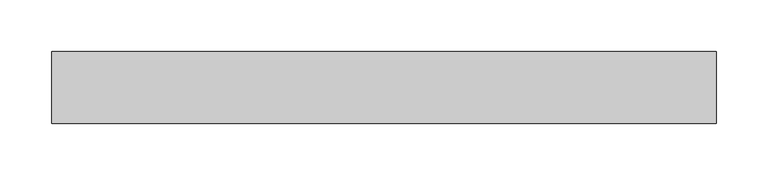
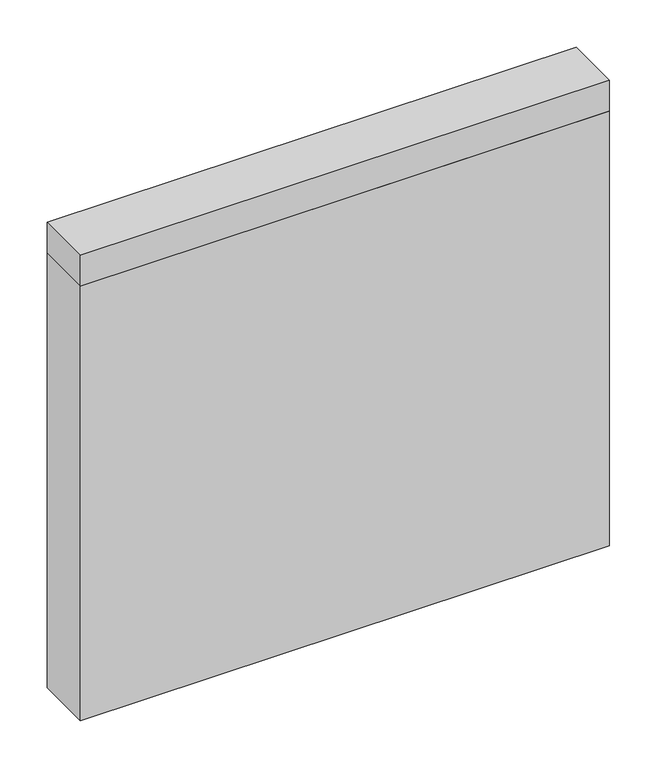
"""IFC4 building model written with IfcOpenShell, lengths in millimetres: plate geometry, 営_パーティションパネル_上部 : パーティションパネル_上部."""

from ifc_helpers import new_model, si_unit, frame, origin, origin_with_axes, place, context, project, spatial, polyline, outline, extrude, source, transform, mapped, element, save


def plate_facfa67a(model_context):
    return source(origin(), model_context, "Body", "SweptSolid", [
        extrude(outline(polyline([(-322.4999998, -35.0), (-322.4999998, 35.0), (322.4999998, 35.0), (322.4999998, -35.0), (-322.4999998, -35.0)])), origin_with_axes(), (0.0, 0.0, 1.0), 560.0),
        extrude(outline(polyline([(-322.4999998, -35.0), (-322.4999998, 35.0), (322.4999998, 35.0), (322.4999998, -35.0), (-322.4999998, -35.0)])), frame((0.0, 0.0, 560.0), z_axis=(0.0, 0.0, 1.0), x_axis=(1.0, 0.0, 0.0)), (0.0, 0.0, 1.0), 40.0),
    ])


if __name__ == "__main__":
    model = new_model("IFC4")
    model_context = context("Model", 3, world=origin())
    ifc_project = project(units=[si_unit("LENGTHUNIT", "METRE", prefix="MILLI")], contexts=[model_context])
    site = spatial("IfcSite", under=ifc_project)
    building = spatial("IfcBuilding", under=site)
    placement = place(None, origin())
    plate_shape = plate_facfa67a(model_context)
    element("IfcPlate", 1, ObjectType="営_パーティションパネル_上部 : パーティションパネル_上部", at=placement, inside=building, context=model_context, shape_type="MappedRepresentation", body=[
        mapped(plate_shape, transform((0.0, 0.0, 0.0), x_axis=(1.0, 0.0, 0.0), y_axis=(0.0, 1.0, 0.0), z_axis=(0.0, 0.0, 1.0))),
    ])
    save(model, "model.ifc")
